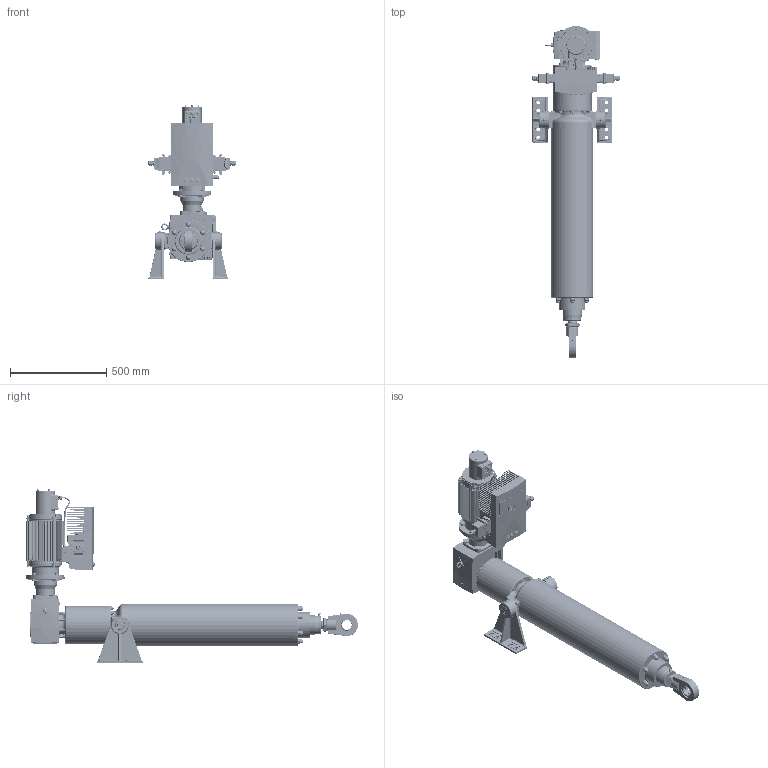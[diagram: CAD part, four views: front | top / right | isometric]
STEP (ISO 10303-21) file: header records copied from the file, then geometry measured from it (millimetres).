
FILE_DESCRIPTION( ( '153-599-4' ), '1' );
FILE_NAME( 'C:/daten/bearbeitung katalogbilder/RBs rendern/austausch pomplun/mit identnr/T1T8-RM-0600-160-241-1.stp', 'Unknown', ( 'Christoph Hahmann' ), ( 'RACO-ELEKTRO-MASCHINEN GmbH' ), 'PSStep 17.0.49', 'Solid Edge ST 7', ' ' );
FILE_SCHEMA( ( 'AUTOMOTIVE_DESIGN { 1 0 10303 214 1 1 1 1 }' ) );
Length unit declared in the file: millimetre
Products named in the file (21): Assem1; 03.01-08 kpl; 02.14-08-0600; 01.15-08-0600 NEU; 02.01-08 kpl; 01.74-08 156-849-3; M6-101-525-7 ; 01.01-08 Gelenkkopf 141-544-1; Adapterplatte für 5,5kW; BG3-155-451-4-kpl; Gehäuse A2- CAN; 10x35-100-977-0; 10-100-572-3; 10.5-100-529-4; 100LX8-100L4-141-971-4 mit Adapter; 04.40-08-Ø200-111-922-2; 03.65-08 2 Füße; Kabel zu Motor 100LX8-100L4; 157-716-6-2; 148-523-7; 04.01-08-0170 ohne GZ
Assembly tree (41 placements, depth 2):
  Assem1
    03.01-08 kpl
    02.14-08-0600
    01.15-08-0600 NEU
    02.01-08 kpl
    01.74-08 156-849-3
    M6-101-525-7 
    01.01-08 Gelenkkopf 141-544-1
    Adapterplatte für 5,5kW
    BG3-155-451-4-kpl
    Gehäuse A2- CAN
    10x35-100-977-0  x8
    10-100-572-3  x8
    10.5-100-529-4  x8
    100LX8-100L4-141-971-4 mit Adapter
    04.40-08-Ø200-111-922-2
    03.65-08 2 Füße
    Kabel zu Motor 100LX8-100L4
    157-716-6-2
    148-523-7
    04.01-08-0170 ohne GZ
Bounding box: 454.49 x 1725.97 x 909 mm (x, y, z)
Surface area: 4300257.9 mm2 (no closed solid volume)
Topology: 0 solids, 10882 shells, 10898 faces, 53882 edges, 52614 vertices
Faces by surface type: plane 5813, cylinder 2603, cone 957, bspline 800, torus 361, sphere 343, extrusion 21
Full cylindrical faces by diameter (mm): 1.6 x2, 2 x7, 2.6 x1, 3 x31, 3.141 x8, 3.242 x24, 4 x23, 4.134 x12, 4.4 x8, 4.5 x12, 4.917 x9, 5 x28, 5.3 x3, 5.5 x13, 5.7 x7, 6 x3, 6.466 x6, 6.647 x8, 6.917 x2, 7 x13, 7.5 x3, 7.6 x8, 7.99 x7, 8 x23, 8.15 x1, 8.2 x1, 8.376 x6, 8.38 x4, 8.4 x2, 8.566 x2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
Entity records: 776811 total; most frequent: CARTESIAN_POINT 303679, DIRECTION 82245, VERTEX_POINT 51202, ORIENTED_EDGE 51114, EDGE_CURVE 51114, VECTOR 27631, LINE 27610, AXIS2_PLACEMENT_3D 27307
